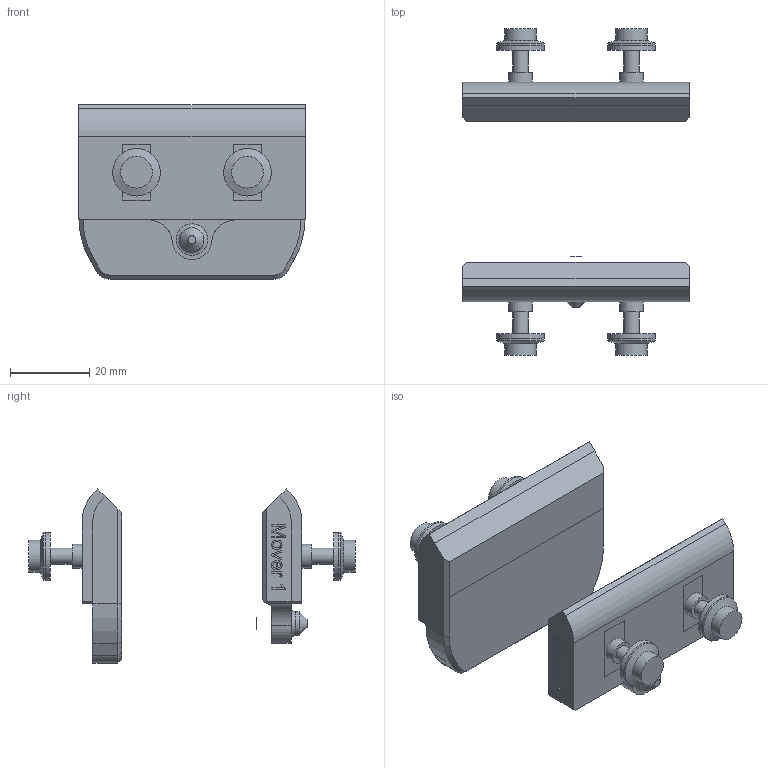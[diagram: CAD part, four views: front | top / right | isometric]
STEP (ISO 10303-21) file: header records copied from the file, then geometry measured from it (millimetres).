
FILE_DESCRIPTION(/* description */ (''),/* implementation_level */ '2;1');
FILE_NAME(/* name */ 'C:\_Vault-Workspace\CAD-Daten\XTS\87_Baukasten\Hygienic\Mover\Public 213687 ATH9001-1550.stp',/* time_stamp */ '2019-10-28T12:27:06+01:00',/* author */ ('AndreasSi'),/* organization */ (''),/* preprocessor_version */ 'ST-DEVELOPER v17.2',/* originating_system */ 'Autodesk Inventor 2019',/* authorisation */ '');
FILE_SCHEMA (('AUTOMOTIVE_DESIGN { 1 0 10303 214 3 1 1 }'));
Length unit declared in the file: millimetre
Products named in the file (1): 213687
Bounding box: 57 x 82.4 x 43.94 mm (x, y, z)
Volume: 38321 mm3; surface area: 13002.1 mm2
Topology: 2 solids, 2 shells, 247 faces, 643 edges, 434 vertices
Faces by surface type: plane 145, bspline 60, cylinder 31, cone 10, torus 1
Full cylindrical faces by diameter (mm): 4 x4, 6 x5, 8 x4, 12 x8
Entity records: 8039 total; most frequent: CARTESIAN_POINT 2165, ORIENTED_EDGE 1286, DIRECTION 992, EDGE_CURVE 643, VERTEX_POINT 434, LINE 426, VECTOR 426, AXIS2_PLACEMENT_3D 283
